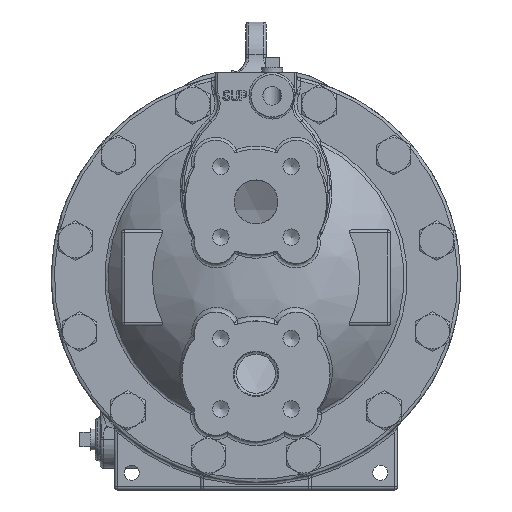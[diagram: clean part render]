
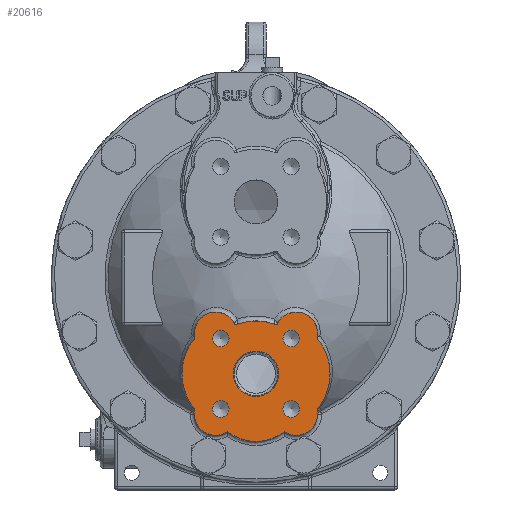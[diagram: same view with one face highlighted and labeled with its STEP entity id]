
A CAD part, front view. The second image highlights one B-rep face of the part: STEP entity #20616.
In plain terms, the highlighted planar face has unit normal (0, -1, 0).
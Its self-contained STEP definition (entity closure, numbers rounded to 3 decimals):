
#2958=FACE_BOUND('',#6550,.T.);
#2959=FACE_BOUND('',#6551,.T.);
#2960=FACE_BOUND('',#6552,.T.);
#2961=FACE_BOUND('',#6553,.T.);
#2962=FACE_BOUND('',#6554,.T.);
#5240=FACE_OUTER_BOUND('',#6549,.T.);
#6549=EDGE_LOOP('',(#15856,#15857,#15858,#15859,#15860,#15861,#15862,#15863,
#15864,#15865));
#6550=EDGE_LOOP('',(#15866,#15867));
#6551=EDGE_LOOP('',(#15868,#15869));
#6552=EDGE_LOOP('',(#15870,#15871));
#6553=EDGE_LOOP('',(#15872,#15873));
#6554=EDGE_LOOP('',(#15874,#15875));
#7800=CIRCLE('',#22170,8.154);
#7801=CIRCLE('',#22171,8.154);
#7804=CIRCLE('',#22176,8.154);
#7805=CIRCLE('',#22177,8.154);
#7808=CIRCLE('',#22182,8.154);
#7809=CIRCLE('',#22183,8.154);
#7812=CIRCLE('',#22188,8.154);
#7813=CIRCLE('',#22189,8.154);
#7913=CIRCLE('',#22374,21.);
#7914=CIRCLE('',#22375,55.);
#7915=CIRCLE('',#22376,21.);
#7916=CIRCLE('',#22377,45.);
#7917=CIRCLE('',#22378,21.);
#7918=CIRCLE('',#22379,55.);
#7919=CIRCLE('',#22380,21.);
#7920=CIRCLE('',#22381,2.);
#7921=CIRCLE('',#22382,52.3);
#7922=CIRCLE('',#22383,2.);
#7923=CIRCLE('',#22384,22.461);
#7924=CIRCLE('',#22385,22.461);
#9357=VERTEX_POINT('',#37577);
#9358=VERTEX_POINT('',#37579);
#9362=VERTEX_POINT('',#37590);
#9363=VERTEX_POINT('',#37592);
#9367=VERTEX_POINT('',#37603);
#9368=VERTEX_POINT('',#37605);
#9372=VERTEX_POINT('',#37616);
#9373=VERTEX_POINT('',#37618);
#9501=VERTEX_POINT('',#40654);
#9502=VERTEX_POINT('',#40655);
#9503=VERTEX_POINT('',#40657);
#9504=VERTEX_POINT('',#40659);
#9505=VERTEX_POINT('',#40661);
#9506=VERTEX_POINT('',#40663);
#9507=VERTEX_POINT('',#40665);
#9508=VERTEX_POINT('',#40667);
#9509=VERTEX_POINT('',#40669);
#9510=VERTEX_POINT('',#40671);
#9511=VERTEX_POINT('',#40674);
#9512=VERTEX_POINT('',#40675);
#11538=EDGE_CURVE('',#9358,#9357,#7800,.T.);
#11539=EDGE_CURVE('',#9357,#9358,#7801,.T.);
#11544=EDGE_CURVE('',#9363,#9362,#7804,.T.);
#11545=EDGE_CURVE('',#9362,#9363,#7805,.T.);
#11550=EDGE_CURVE('',#9368,#9367,#7808,.T.);
#11551=EDGE_CURVE('',#9367,#9368,#7809,.T.);
#11556=EDGE_CURVE('',#9373,#9372,#7812,.T.);
#11557=EDGE_CURVE('',#9372,#9373,#7813,.T.);
#11783=EDGE_CURVE('',#9501,#9502,#7913,.T.);
#11784=EDGE_CURVE('',#9503,#9501,#7914,.T.);
#11785=EDGE_CURVE('',#9504,#9503,#7915,.T.);
#11786=EDGE_CURVE('',#9505,#9504,#7916,.T.);
#11787=EDGE_CURVE('',#9506,#9505,#7917,.T.);
#11788=EDGE_CURVE('',#9507,#9506,#7918,.T.);
#11789=EDGE_CURVE('',#9508,#9507,#7919,.T.);
#11790=EDGE_CURVE('',#9509,#9508,#7920,.T.);
#11791=EDGE_CURVE('',#9510,#9509,#7921,.T.);
#11792=EDGE_CURVE('',#9502,#9510,#7922,.T.);
#11793=EDGE_CURVE('',#9511,#9512,#7923,.T.);
#11794=EDGE_CURVE('',#9512,#9511,#7924,.T.);
#15856=ORIENTED_EDGE('',*,*,#11783,.F.);
#15857=ORIENTED_EDGE('',*,*,#11784,.F.);
#15858=ORIENTED_EDGE('',*,*,#11785,.F.);
#15859=ORIENTED_EDGE('',*,*,#11786,.F.);
#15860=ORIENTED_EDGE('',*,*,#11787,.F.);
#15861=ORIENTED_EDGE('',*,*,#11788,.F.);
#15862=ORIENTED_EDGE('',*,*,#11789,.F.);
#15863=ORIENTED_EDGE('',*,*,#11790,.F.);
#15864=ORIENTED_EDGE('',*,*,#11791,.F.);
#15865=ORIENTED_EDGE('',*,*,#11792,.F.);
#15866=ORIENTED_EDGE('',*,*,#11538,.T.);
#15867=ORIENTED_EDGE('',*,*,#11539,.T.);
#15868=ORIENTED_EDGE('',*,*,#11544,.T.);
#15869=ORIENTED_EDGE('',*,*,#11545,.T.);
#15870=ORIENTED_EDGE('',*,*,#11550,.T.);
#15871=ORIENTED_EDGE('',*,*,#11551,.T.);
#15872=ORIENTED_EDGE('',*,*,#11556,.T.);
#15873=ORIENTED_EDGE('',*,*,#11557,.T.);
#15874=ORIENTED_EDGE('',*,*,#11793,.T.);
#15875=ORIENTED_EDGE('',*,*,#11794,.T.);
#19987=PLANE('',#22373);
#20616=ADVANCED_FACE('',(#5240,#2958,#2959,#2960,#2961,#2962),#19987,.F.);
#22170=AXIS2_PLACEMENT_3D('',#37580,#25465,#25466);
#22171=AXIS2_PLACEMENT_3D('',#37581,#25467,#25468);
#22176=AXIS2_PLACEMENT_3D('',#37593,#25479,#25480);
#22177=AXIS2_PLACEMENT_3D('',#37594,#25481,#25482);
#22182=AXIS2_PLACEMENT_3D('',#37606,#25493,#25494);
#22183=AXIS2_PLACEMENT_3D('',#37607,#25495,#25496);
#22188=AXIS2_PLACEMENT_3D('',#37619,#25507,#25508);
#22189=AXIS2_PLACEMENT_3D('',#37620,#25509,#25510);
#22373=AXIS2_PLACEMENT_3D('',#40653,#25930,#25931);
#22374=AXIS2_PLACEMENT_3D('',#40656,#25932,#25933);
#22375=AXIS2_PLACEMENT_3D('',#40658,#25934,#25935);
#22376=AXIS2_PLACEMENT_3D('',#40660,#25936,#25937);
#22377=AXIS2_PLACEMENT_3D('',#40662,#25938,#25939);
#22378=AXIS2_PLACEMENT_3D('',#40664,#25940,#25941);
#22379=AXIS2_PLACEMENT_3D('',#40666,#25942,#25943);
#22380=AXIS2_PLACEMENT_3D('',#40668,#25944,#25945);
#22381=AXIS2_PLACEMENT_3D('',#40670,#25946,#25947);
#22382=AXIS2_PLACEMENT_3D('',#40672,#25948,#25949);
#22383=AXIS2_PLACEMENT_3D('',#40673,#25950,#25951);
#22384=AXIS2_PLACEMENT_3D('',#40676,#25952,#25953);
#22385=AXIS2_PLACEMENT_3D('',#40677,#25954,#25955);
#25465=DIRECTION('center_axis',(0.,1.,0.));
#25466=DIRECTION('ref_axis',(1.,0.,0.));
#25467=DIRECTION('center_axis',(0.,1.,0.));
#25468=DIRECTION('ref_axis',(1.,0.,0.));
#25479=DIRECTION('center_axis',(0.,1.,0.));
#25480=DIRECTION('ref_axis',(1.,0.,0.));
#25481=DIRECTION('center_axis',(0.,1.,0.));
#25482=DIRECTION('ref_axis',(1.,0.,0.));
#25493=DIRECTION('center_axis',(0.,1.,0.));
#25494=DIRECTION('ref_axis',(1.,0.,0.));
#25495=DIRECTION('center_axis',(0.,1.,0.));
#25496=DIRECTION('ref_axis',(1.,0.,0.));
#25507=DIRECTION('center_axis',(0.,1.,0.));
#25508=DIRECTION('ref_axis',(1.,0.,0.));
#25509=DIRECTION('center_axis',(0.,1.,0.));
#25510=DIRECTION('ref_axis',(1.,0.,0.));
#25930=DIRECTION('center_axis',(0.,1.,0.));
#25931=DIRECTION('ref_axis',(0.,0.,1.));
#25932=DIRECTION('center_axis',(0.,1.,0.));
#25933=DIRECTION('ref_axis',(1.,0.,0.));
#25934=DIRECTION('center_axis',(0.,1.,0.));
#25935=DIRECTION('ref_axis',(-0.767,0.,-0.642));
#25936=DIRECTION('center_axis',(0.,1.,0.));
#25937=DIRECTION('ref_axis',(1.,0.,0.));
#25938=DIRECTION('center_axis',(0.,1.,0.));
#25939=DIRECTION('ref_axis',(0.622,0.,-0.783));
#25940=DIRECTION('center_axis',(0.,1.,0.));
#25941=DIRECTION('ref_axis',(1.,0.,0.));
#25942=DIRECTION('center_axis',(0.,1.,0.));
#25943=DIRECTION('ref_axis',(0.767,0.,0.642));
#25944=DIRECTION('center_axis',(0.,1.,0.));
#25945=DIRECTION('ref_axis',(1.,0.,0.));
#25946=DIRECTION('center_axis',(0.,-1.,0.));
#25947=DIRECTION('ref_axis',(0.351,0.,-0.936));
#25948=DIRECTION('center_axis',(0.,1.,0.));
#25949=DIRECTION('ref_axis',(-0.919,0.,0.394));
#25950=DIRECTION('center_axis',(0.,-1.,0.));
#25951=DIRECTION('ref_axis',(-0.351,0.,-0.936));
#25952=DIRECTION('center_axis',(0.,1.,0.));
#25953=DIRECTION('ref_axis',(1.,0.,0.));
#25954=DIRECTION('center_axis',(0.,1.,0.));
#25955=DIRECTION('ref_axis',(1.,0.,0.));
#37577=CARTESIAN_POINT('',(-43.014,-117.,-129.86));
#37579=CARTESIAN_POINT('',(-26.707,-117.,-129.86));
#37580=CARTESIAN_POINT('Origin',(-34.86,-117.,-129.86));
#37581=CARTESIAN_POINT('Origin',(-34.86,-117.,-129.86));
#37590=CARTESIAN_POINT('',(26.707,-117.,-129.86));
#37592=CARTESIAN_POINT('',(43.014,-117.,-129.86));
#37593=CARTESIAN_POINT('Origin',(34.86,-117.,-129.86));
#37594=CARTESIAN_POINT('Origin',(34.86,-117.,-129.86));
#37603=CARTESIAN_POINT('',(26.707,-117.,-60.14));
#37605=CARTESIAN_POINT('',(43.014,-117.,-60.14));
#37606=CARTESIAN_POINT('Origin',(34.86,-117.,-60.14));
#37607=CARTESIAN_POINT('Origin',(34.86,-117.,-60.14));
#37616=CARTESIAN_POINT('',(-43.014,-117.,-60.14));
#37618=CARTESIAN_POINT('',(-26.707,-117.,-60.14));
#37619=CARTESIAN_POINT('Origin',(-34.86,-117.,-60.14));
#37620=CARTESIAN_POINT('Origin',(-34.86,-117.,-60.14));
#40653=CARTESIAN_POINT('Origin',(-41.301,-117.,-133.82));
#40654=CARTESIAN_POINT('',(-60.435,-117.,-59.678));
#40655=CARTESIAN_POINT('',(-21.359,-117.,-45.286));
#40656=CARTESIAN_POINT('Origin',(-39.952,-117.,-55.048));
#40657=CARTESIAN_POINT('',(-60.435,-117.,-130.322));
#40658=CARTESIAN_POINT('Origin',(-18.276,-117.,-95.));
#40659=CARTESIAN_POINT('',(-28.006,-117.,-152.223));
#40660=CARTESIAN_POINT('Origin',(-39.952,-117.,-134.952));
#40661=CARTESIAN_POINT('',(28.006,-117.,-152.223));
#40662=CARTESIAN_POINT('Origin',(0.,-117.,-117.));
#40663=CARTESIAN_POINT('',(60.435,-117.,-130.322));
#40664=CARTESIAN_POINT('Origin',(39.952,-117.,-134.952));
#40665=CARTESIAN_POINT('',(60.435,-117.,-59.678));
#40666=CARTESIAN_POINT('Origin',(18.276,-117.,-95.));
#40667=CARTESIAN_POINT('',(21.359,-117.,-45.286));
#40668=CARTESIAN_POINT('Origin',(39.952,-117.,-55.048));
#40669=CARTESIAN_POINT('',(18.867,-117.,-46.221));
#40670=CARTESIAN_POINT('Origin',(19.588,-117.,-44.356));
#40671=CARTESIAN_POINT('',(-18.867,-117.,-46.221));
#40672=CARTESIAN_POINT('Origin',(0.,-117.,-95.));
#40673=CARTESIAN_POINT('Origin',(-19.588,-117.,-44.356));
#40674=CARTESIAN_POINT('',(22.461,-117.,-95.));
#40675=CARTESIAN_POINT('',(-22.461,-117.,-95.));
#40676=CARTESIAN_POINT('Origin',(0.,-117.,-95.));
#40677=CARTESIAN_POINT('Origin',(0.,-117.,-95.));
